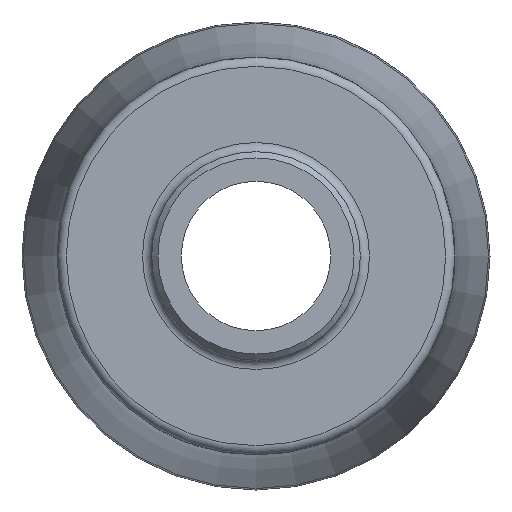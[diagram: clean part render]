
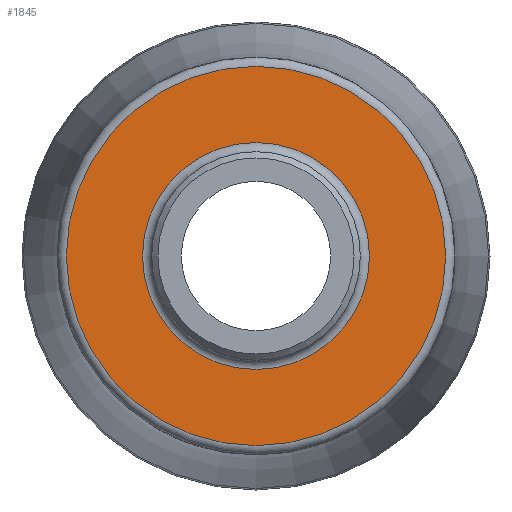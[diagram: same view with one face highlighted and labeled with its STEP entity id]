
A CAD part, left-side view. The second image highlights one B-rep face of the part: STEP entity #1845.
In plain terms, the highlighted planar face has unit normal (-1, 0, 0).
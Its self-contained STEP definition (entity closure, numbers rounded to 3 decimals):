
#194=FACE_BOUND('',#408,.T.);
#208=PLANE('',#2054);
#294=FACE_OUTER_BOUND('',#407,.T.);
#407=EDGE_LOOP('',(#1458,#1459));
#408=EDGE_LOOP('',(#1460,#1461));
#744=CIRCLE('',#2052,11.403);
#745=CIRCLE('',#2053,11.403);
#746=CIRCLE('',#2055,19.05);
#747=CIRCLE('',#2056,19.05);
#881=VERTEX_POINT('',#3251);
#882=VERTEX_POINT('',#3253);
#883=VERTEX_POINT('',#3257);
#884=VERTEX_POINT('',#3258);
#1092=EDGE_CURVE('',#881,#882,#744,.T.);
#1093=EDGE_CURVE('',#882,#881,#745,.T.);
#1094=EDGE_CURVE('',#883,#884,#746,.T.);
#1095=EDGE_CURVE('',#884,#883,#747,.T.);
#1458=ORIENTED_EDGE('',*,*,#1094,.F.);
#1459=ORIENTED_EDGE('',*,*,#1095,.F.);
#1460=ORIENTED_EDGE('',*,*,#1093,.F.);
#1461=ORIENTED_EDGE('',*,*,#1092,.F.);
#1845=ADVANCED_FACE('',(#294,#194),#208,.T.);
#2052=AXIS2_PLACEMENT_3D('',#3254,#2427,#2428);
#2053=AXIS2_PLACEMENT_3D('',#3255,#2429,#2430);
#2054=AXIS2_PLACEMENT_3D('',#3256,#2431,#2432);
#2055=AXIS2_PLACEMENT_3D('',#3259,#2433,#2434);
#2056=AXIS2_PLACEMENT_3D('',#3260,#2435,#2436);
#2427=DIRECTION('center_axis',(-1.,0.,0.));
#2428=DIRECTION('ref_axis',(0.,-1.,0.));
#2429=DIRECTION('center_axis',(-1.,0.,0.));
#2430=DIRECTION('ref_axis',(0.,-1.,0.));
#2431=DIRECTION('center_axis',(-1.,0.,0.));
#2432=DIRECTION('ref_axis',(0.,0.,1.));
#2433=DIRECTION('center_axis',(1.,0.,0.));
#2434=DIRECTION('ref_axis',(0.,-1.,0.));
#2435=DIRECTION('center_axis',(1.,0.,0.));
#2436=DIRECTION('ref_axis',(0.,-1.,0.));
#3251=CARTESIAN_POINT('',(16.,0.,11.403));
#3253=CARTESIAN_POINT('',(16.,11.403,0.));
#3254=CARTESIAN_POINT('Origin',(16.,0.,0.));
#3255=CARTESIAN_POINT('Origin',(16.,0.,0.));
#3256=CARTESIAN_POINT('Origin',(16.,19.975,0.));
#3257=CARTESIAN_POINT('',(16.,19.05,0.));
#3258=CARTESIAN_POINT('',(16.,0.,19.05));
#3259=CARTESIAN_POINT('Origin',(16.,0.,0.));
#3260=CARTESIAN_POINT('Origin',(16.,0.,0.));
